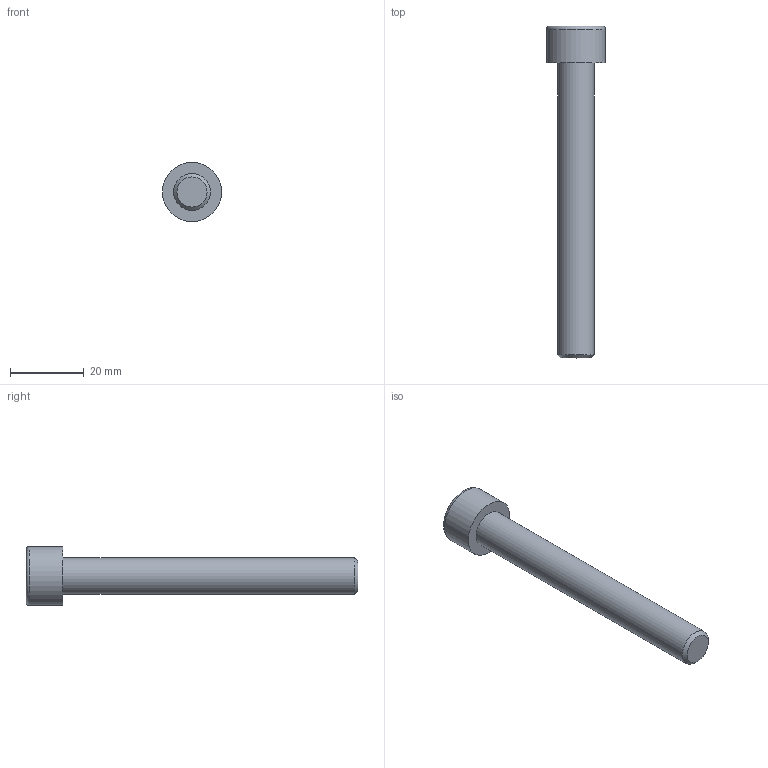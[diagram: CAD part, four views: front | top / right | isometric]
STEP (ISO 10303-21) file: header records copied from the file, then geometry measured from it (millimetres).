
FILE_DESCRIPTION(/* description */ (''),/* implementation_level */ '2;1');
FILE_NAME(/* name */ 'C:\Users\D\Documents\Inventor\各種小物\JIS\JIS B 1176 六角穴付きボルト\M10x80.stp',/* time_stamp */ '2022-05-09T18:52:04+09:00',/* author */ ('D'),/* organization */ (''),/* preprocessor_version */ 'ST-DEVELOPER v18',/* originating_system */ 'Autodesk Inventor 2020',/* authorisation */ '');
FILE_SCHEMA (('AUTOMOTIVE_DESIGN { 1 0 10303 214 3 1 1 }'));
Length unit declared in the file: millimetre
Products named in the file (1): M1.6x2.5
Bounding box: 16 x 90 x 16 mm (x, y, z)
Volume: 7935.8 mm3; surface area: 3531.6 mm2
Topology: 1 solids, 1 shells, 14 faces, 33 edges, 22 vertices
Faces by surface type: plane 9, cone 2, cylinder 2, torus 1
Full cylindrical faces by diameter (mm): 10 x1, 16 x1
Entity records: 435 total; most frequent: CARTESIAN_POINT 83, ORIENTED_EDGE 64, DIRECTION 64, EDGE_CURVE 32, AXIS2_PLACEMENT_3D 24, VERTEX_POINT 22, EDGE_LOOP 16, LINE 16
